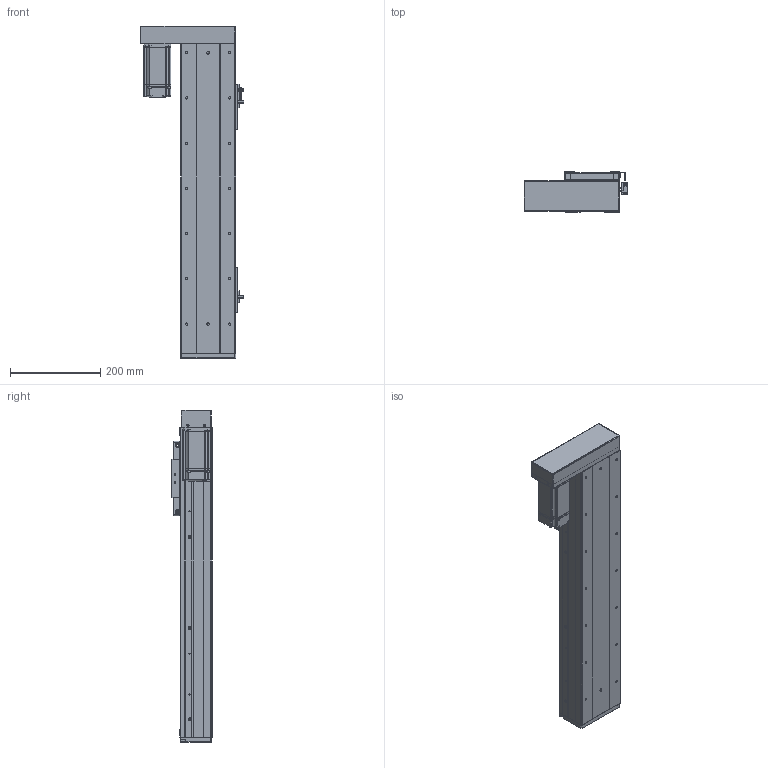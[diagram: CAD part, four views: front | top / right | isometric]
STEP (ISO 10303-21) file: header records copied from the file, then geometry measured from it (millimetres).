
FILE_DESCRIPTION (( 'STEP AP203' ), '1' );
FILE_NAME ('RY120F-L1620-300-LK.SLDASM_450.step', '2021-03-02T08:03:50', ( '盈信电脑' ), ( '东莞市道滘镇水果街19号' ), 'SwSTEP 2.0', 'SolidWorks 2012', '' );
FILE_SCHEMA (( 'CONFIG_CONTROL_DESIGN' ));
Length unit declared in the file: millimetre
Products named in the file (18): RY120F-L1620-300-LK.SLDASM_450; RY120F酘衵殏萇儂欶(200W); RY120F酘衵殏萇儂啣(200W PCD70 M4); 15; RY80俋离覜茼え; 672嫖萇羲壽假蚾釱; FY120F詩湍揤踡輸; 覜茼ん672; 滅袉蝶18-24; RY120F綴裔啣(臏璃ㄘ; RY120F祥凄詩滅鳥裔; RY120F-詩湍幗謫粣; RT120F-臏賑輸 16蹟譫; RY120F滅鳥詩湍-300-LK_450; RT120F-臏賑輸奻釱; RY120F转折电机端支撑座; RT120F-300-倰第裔啣-LK_450; RT120F-300-倰第菁釱-LK_450
Assembly tree (23 placements, depth 2):
  RY120F-L1620-300-LK.SLDASM_450
    RT120F-300-倰第菁釱-LK_450
    RT120F-300-倰第裔啣-LK_450  x2
    RY120F滅鳥詩湍-300-LK_450
    RT120F-臏賑輸 16蹟譫
    RT120F-臏賑輸奻釱
    RY120F转折电机端支撑座
    RY120F祥凄詩滅鳥裔
    滅袉蝶18-24  x2
    RY120F綴裔啣(臏璃ㄘ
    RY120F-詩湍幗謫粣
    覜茼ん672  x3
    672嫖萇羲壽假蚾釱  x2
    RY80俋离覜茼え
    FY120F詩湍揤踡輸  x2
    15
    RY120F酘衵殏萇儂啣(200W PCD70 M4)
    RY120F酘衵殏萇儂欶(200W)
Bounding box: 229.9 x 89 x 734 mm (x, y, z)
Volume: 2872947.4 mm3; surface area: 1034608.9 mm2
Topology: 23 solids, 23 shells, 2059 faces, 5521 edges, 3519 vertices
Faces by surface type: cylinder 912, plane 896, cone 225, bspline 26
Entity records: 57667 total; most frequent: CARTESIAN_POINT 10678, DIRECTION 9717, ORIENTED_EDGE 9090, EDGE_CURVE 4545, AXIS2_PLACEMENT_3D 3506, VERTEX_POINT 2963, LINE 2705, VECTOR 2705
